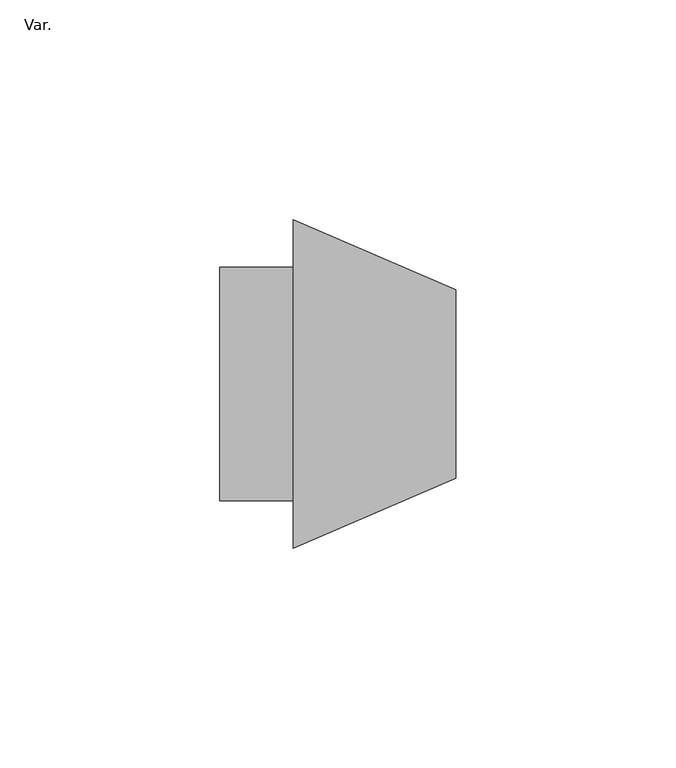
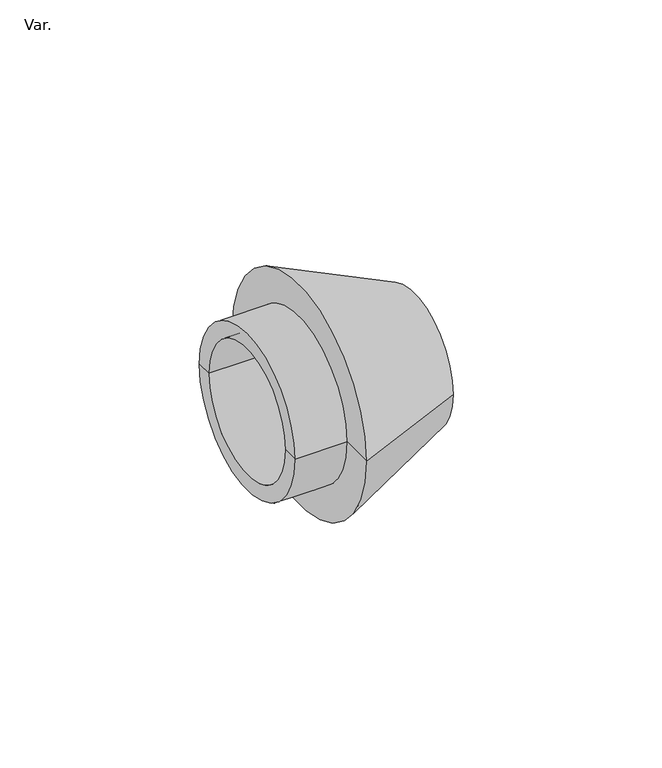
"""IFC4 building model written with IfcOpenShell, lengths in millimetres: pipe fitting geometry, PavcoWavin_UnionesDeTuberia_SanitariaZnoUsarAdaptador_Sifon : Var.."""

from ifc_helpers import new_model, si_unit, frame, origin, place, context, project, spatial, polyline, circle_curve, source, transform, mapped, element, save
from ifc_brep_helpers import plane_surface, cylinder_surface, revolved_surface, advanced_brep


def var_50cf3e29(model_context):
    return source(origin(), model_context, "Body", "AdvancedBrep", [
        advanced_brep(
        [(-10.125, -37.3, 0.0), (-10.125, 37.3, 0.0), (26.825, 21.39, 0.0), (26.825, -21.39, 0.0), (-10.125, -26.56, 0.0), (-10.125, 26.56, 0.0), (-26.825, -26.56, 0.0), (-26.825, 26.56, 0.0), (-26.825, -21.39, 0.0), (-26.825, 21.39, 0.0)],
        [
            (0, 1, circle_curve(frame((-10.125, 0.0, 0.0), z_axis=(1.0, 0.0, 0.0), x_axis=(0.0, 1.0, 0.0)), 37.3)),
            (1, 2),
            (2, 3, circle_curve(frame((26.825, 0.0, 0.0), z_axis=(-1.0, 0.0, 0.0), x_axis=(0.0, 1.0, 0.0)), 21.39)),
            (3, 0),
            (1, 0, circle_curve(frame((-10.125, 0.0, 0.0), z_axis=(1.0, 0.0, 0.0), x_axis=(0.0, 1.0, 0.0)), 37.3)),
            (3, 2, circle_curve(frame((26.825, 0.0, 0.0), z_axis=(-1.0, 0.0, 0.0), x_axis=(0.0, 1.0, 0.0)), 21.39)),
            (4, 5, circle_curve(frame((-10.125, 0.0, 0.0), z_axis=(1.0, 0.0, 0.0), x_axis=(0.0, 1.0, 0.0)), 26.56)),
            (5, 1),
            (0, 4),
            (5, 4, circle_curve(frame((-10.125, 0.0, 0.0), z_axis=(1.0, 0.0, 0.0), x_axis=(0.0, 1.0, 0.0)), 26.56)),
            (6, 7, circle_curve(frame((-26.825, 0.0, 0.0), z_axis=(1.0, 0.0, 0.0), x_axis=(0.0, 1.0, 0.0)), 26.56)),
            (7, 5),
            (4, 6),
            (7, 6, circle_curve(frame((-26.825, 0.0, 0.0), z_axis=(1.0, 0.0, 0.0), x_axis=(0.0, 1.0, 0.0)), 26.56)),
            (8, 9, circle_curve(frame((-26.825, 0.0, 0.0), z_axis=(1.0, 0.0, 0.0), x_axis=(0.0, 1.0, 0.0)), 21.39)),
            (9, 7),
            (6, 8),
            (9, 8, circle_curve(frame((-26.825, 0.0, 0.0), z_axis=(1.0, 0.0, 0.0), x_axis=(0.0, 1.0, 0.0)), 21.39)),
            (2, 9),
            (8, 3),
        ],
        [
            revolved_surface(polyline([(26.825, 21.39, 0.0), (-10.125, 37.3, 0.0)]), (1974.3496382, 0.0, 0.0), (-1.0, 0.0, 0.0)),
            plane_surface(frame((-10.125, 0.0, 0.0), z_axis=(-1.0, 0.0, 0.0), x_axis=(0.0, 1.0, 0.0))),
            cylinder_surface(frame((1974.3496382, 0.0, 0.0), z_axis=(-1.0, 0.0, 0.0), x_axis=(0.0, 1.0, 0.0)), 26.56),
            plane_surface(frame((-26.825, 0.0, 0.0), z_axis=(-1.0, 0.0, 0.0), x_axis=(0.0, 1.0, 0.0))),
            revolved_surface(polyline([(-26.825000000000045, 21.39, 0.0), (26.825000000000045, 21.39, 0.0)]), (1974.3496382, 0.0, 0.0), (-1.0, 0.0, 0.0)),
        ],
        [
            (0, [[1, 2, 3, 4]]),
            (0, [[5, -4, 6, -2]]),
            (1, [[7, 8, -1, 9]]),
            (1, [[10, -9, -5, -8]]),
            (2, [[11, 12, -7, 13]]),
            (2, [[14, -13, -10, -12]]),
            (3, [[15, 16, -11, 17]]),
            (3, [[18, -17, -14, -16]]),
            (4, [[-3, 19, -15, 20]]),
            (4, [[-6, -20, -18, -19]]),
        ],
    ),
    ])


if __name__ == "__main__":
    model = new_model("IFC4")
    model_context = context("Model", 3, world=origin())
    ifc_project = project(units=[si_unit("LENGTHUNIT", "METRE", prefix="MILLI")], contexts=[model_context])
    site = spatial("IfcSite", under=ifc_project)
    building = spatial("IfcBuilding", under=site)
    placement = place(None, origin())
    var_shape = var_50cf3e29(model_context)
    element("IfcPipeFitting", 1, ObjectType="PavcoWavin_UnionesDeTuberia_SanitariaZnoUsarAdaptador_Sifon : Var.", at=placement, inside=building, context=model_context, shape_type="MappedRepresentation", body=[
        mapped(var_shape, transform((0.0, 0.0, 0.0), x_axis=(1.0, 0.0, 0.0), y_axis=(0.0, 1.0, 0.0), z_axis=(0.0, 0.0, 1.0))),
    ])
    save(model, "model.ifc")
